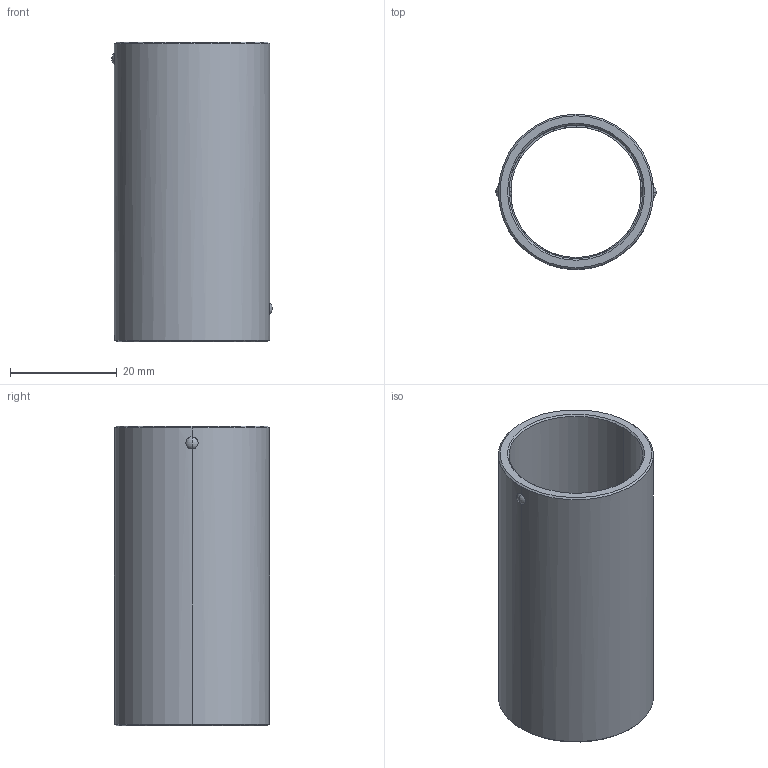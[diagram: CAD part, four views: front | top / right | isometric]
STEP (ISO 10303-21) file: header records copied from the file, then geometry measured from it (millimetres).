
FILE_DESCRIPTION(('CATIA V5 STEP Exchange'),'2;1');
FILE_NAME('C:\Users\Utente\Desktop\IO LAVORO\3D X SITO CF\X SITO\730\730-24x56.stp','2021-01-07T16:16:00+00:00',('none'),('none'),'CATIA Version 5 Release 20 GA (IN-10)','CATIA V5 STEP AP203','none');
FILE_SCHEMA(('CONFIG_CONTROL_DESIGN'));
Length unit declared in the file: millimetre
Products named in the file (1): 730-24x56
Bounding box: 30 x 29 x 56 mm (x, y, z)
Volume: 9220.9 mm3; surface area: 9999 mm2
Topology: 1 solids, 1 shells, 44 faces, 120 edges, 76 vertices
Faces by surface type: cylinder 18, cone 10, plane 8, sphere 8
Entity records: 1724 total; most frequent: CARTESIAN_POINT 657, ORIENTED_EDGE 240, DIRECTION 161, EDGE_CURVE 120, AXIS2_PLACEMENT_3D 80, VERTEX_POINT 76, EDGE_LOOP 48, B_SPLINE_CURVE_WITH_KNOTS 47
